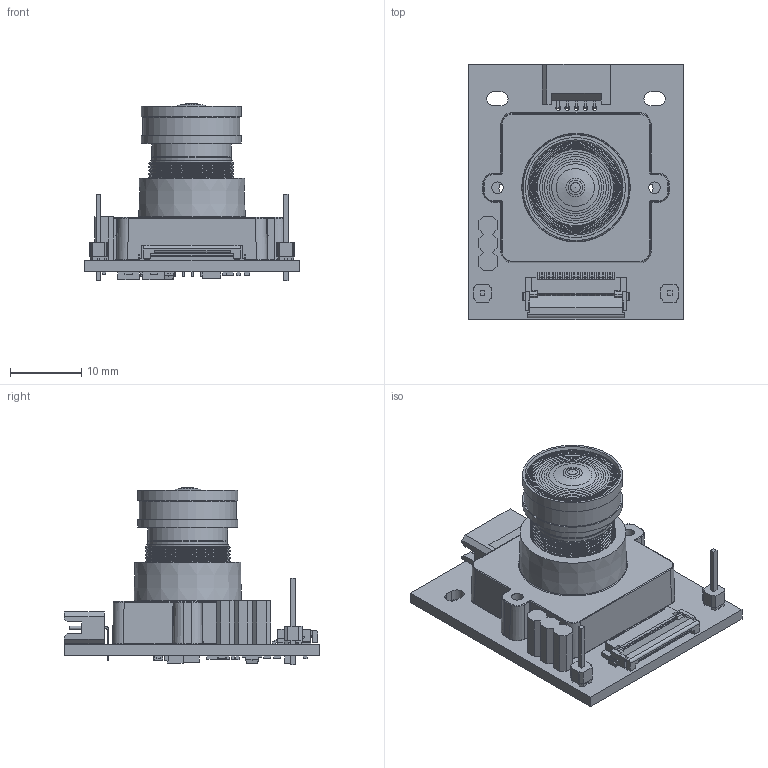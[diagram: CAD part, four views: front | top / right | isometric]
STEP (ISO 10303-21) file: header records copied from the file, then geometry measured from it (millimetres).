
FILE_DESCRIPTION(/* description */ (''),/* implementation_level */ '2;1');
FILE_NAME(/* name */ 'PCB4188D.step',/* time_stamp */ '2024-06-25T15:35:04+02:00',/* author */ (''),/* organization */ (''),/* preprocessor_version */ 'ST-DEVELOPER v19.2',/* originating_system */ 'Autodesk Translation Framework v12.6.0.85',/* authorisation */ '');
FILE_SCHEMA (('AUTOMOTIVE_DESIGN { 1 0 10303 214 3 1 1 }'));
Length unit declared in the file: millimetre
Products named in the file (50): PCB4188D; PCB4188D_1; Open CASCADE STEP translator 7.5 1; Open CASCADE STEP translator 7.5 2; Open CASCADE STEP translator 7.5 3; Open CASCADE STEP translator 7.5 4; Open CASCADE STEP translator 7.5 5; Open CASCADE STEP translator 7.5 6; Open CASCADE STEP translator 7.5 7; Open CASCADE STEP translator 7.5 8; Open CASCADE STEP translator 7.5 9; Open CASCADE STEP translator 7.5 10; Open CASCADE STEP translator 7.5 11; Open CASCADE STEP translator 7.5 12; Open CASCADE STEP translator 7.5 13; Open CASCADE STEP translator 7.5 14; Open CASCADE STEP translator 7.5 15; Open CASCADE STEP translator 7.5 16; Open CASCADE STEP translator 7.5 17; Open CASCADE STEP translator 7.5 18; Open CASCADE STEP translator 7.5 19; Open CASCADE STEP translator 7.5 20; Open CASCADE STEP translator 7.5 21; Open CASCADE STEP translator 7.5 22; Open CASCADE STEP translator 7.5 23; Open CASCADE STEP translator 7.5 24; Open CASCADE STEP translator 7.5 25; Open CASCADE STEP translator 7.5 26; Open CASCADE STEP translator 7.5 27; Open CASCADE STEP translator 7.5 28; Open CASCADE STEP translator 7.5 29; Open CASCADE STEP translator 7.5 30; Open CASCADE STEP translator 7.5 31; Open CASCADE STEP translator 7.5 32; Open CASCADE STEP translator 7.5 33; Open CASCADE STEP translator 7.5 34; Open CASCADE STEP translator 7.5 35; Open CASCADE STEP translator 7.5 36; Open CASCADE STEP translator 7.5 37; Open CASCADE STEP translator 7.5 38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
Assembly tree (49 placements, depth 3):
  PCB4188D
    PCB4188D_1
      Open CASCADE STEP translator 7.5 1
      Open CASCADE STEP translator 7.5 2
      Open CASCADE STEP translator 7.5 3
      Open CASCADE STEP translator 7.5 4
      Open CASCADE STEP translator 7.5 5
      Open CASCADE STEP translator 7.5 6
      Open CASCADE STEP translator 7.5 7
      Open CASCADE STEP translator 7.5 8
      Open CASCADE STEP translator 7.5 9
      Open CASCADE STEP translator 7.5 10
      Open CASCADE STEP translator 7.5 11
      Open CASCADE STEP translator 7.5 12
      Open CASCADE STEP translator 7.5 13
      Open CASCADE STEP translator 7.5 14
      Open CASCADE STEP translator 7.5 15
      Open CASCADE STEP translator 7.5 16
      Open CASCADE STEP translator 7.5 17
      Open CASCADE STEP translator 7.5 18
      Open CASCADE STEP translator 7.5 19
      Open CASCADE STEP translator 7.5 20
      Open CASCADE STEP translator 7.5 21
      Open CASCADE STEP translator 7.5 22
      Open CASCADE STEP translator 7.5 23
      Open CASCADE STEP translator 7.5 24
      Open CASCADE STEP translator 7.5 25
      Open CASCADE STEP translator 7.5 26
      Open CASCADE STEP translator 7.5 27
      Open CASCADE STEP translator 7.5 28
      Open CASCADE STEP translator 7.5 29
      Open CASCADE STEP translator 7.5 30
      Open CASCADE STEP translator 7.5 31
      Open CASCADE STEP translator 7.5 32
      Open CASCADE STEP translator 7.5 33
      Open CASCADE STEP translator 7.5 34
      Open CASCADE STEP translator 7.5 35
      Open CASCADE STEP translator 7.5 36
      Open CASCADE STEP translator 7.5 37
      Open CASCADE STEP translator 7.5 38
      Open CASCADE STEP translator 7.5 39
      Open CASCADE STEP translator 7.5 40
      Open CASCADE STEP translator 7.5 41
      Open CASCADE STEP translator 7.5 42
      Open CASCADE STEP translator 7.5 43
      Open CASCADE STEP translator 7.5 44
      Open CASCADE STEP translator 7.5 45
      Open CASCADE STEP translator 7.5 46
      Open CASCADE STEP translator 7.5 47
      Open CASCADE STEP translator 7.5 48
Bounding box: 30 x 35.7 x 24.89 mm (x, y, z)
Volume: 6345.4 mm3; surface area: 8454.8 mm2
Topology: 66 solids, 66 shells, 1806 faces, 4658 edges, 2999 vertices
Faces by surface type: plane 1348, cylinder 285, cone 118, bspline 42, torus 9, sphere 4
Full cylindrical faces by diameter (mm): 0.457 x5, 0.65 x5, 1 x5, 1.6 x2, 1.75 x2, 6.75 x1, 8.807 x1, 10 x1, 10.697 x1, 11.128 x2, 11.224 x1, 11.4 x13, 11.439 x16, 11.894 x15, 13.593 x1, 14 x2
Entity records: 59780 total; most frequent: CARTESIAN_POINT 13641, ORIENTED_EDGE 9306, DIRECTION 9086, EDGE_CURVE 4653, LINE 3846, VECTOR 3846, VERTEX_POINT 2999, AXIS2_PLACEMENT_3D 2620
